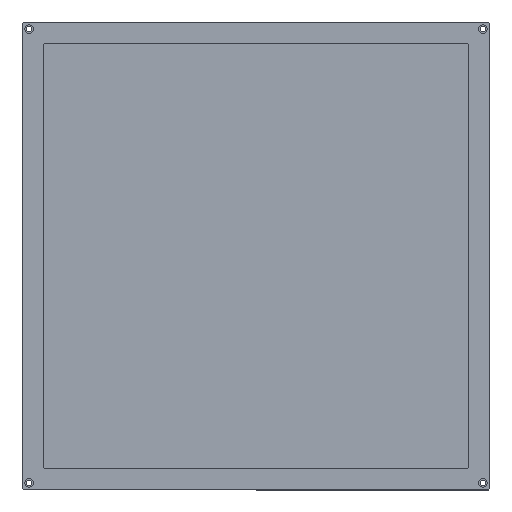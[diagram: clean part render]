
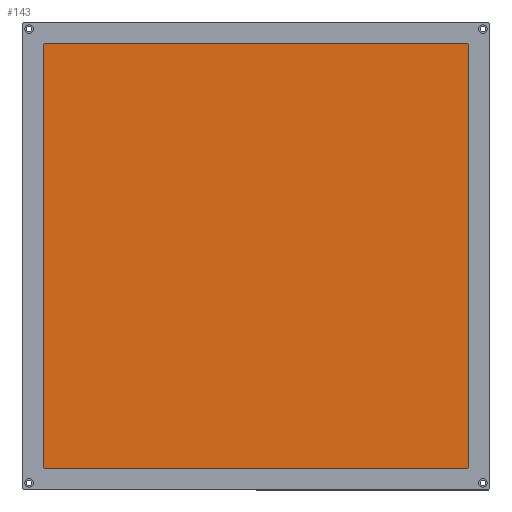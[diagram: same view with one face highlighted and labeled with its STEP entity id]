
A CAD part, top view. The second image highlights one B-rep face of the part: STEP entity #143.
In plain terms, the highlighted planar face has unit normal (0, 0, 1).
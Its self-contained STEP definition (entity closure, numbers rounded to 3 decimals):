
#68=CARTESIAN_POINT('',(0.,0.,11.5));
#69=DIRECTION('',(0.0,0.0,1.0));
#70=DIRECTION('',(1.0,0.0,0.0));
#71=AXIS2_PLACEMENT_3D('',#68,#69,#70);
#72=PLANE('',#71);
#73=CARTESIAN_POINT('',(150.,-148.,11.5));
#74=VERTEX_POINT('',#73);
#75=CARTESIAN_POINT('',(148.,-150.,11.5));
#76=VERTEX_POINT('',#75);
#77=CARTESIAN_POINT('',(148.,-148.,11.5));
#78=DIRECTION('',(0.0,0.0,-1.0));
#79=DIRECTION('',(0.0,-1.0,0.0));
#80=AXIS2_PLACEMENT_3D('',#77,#78,#79);
#81=CIRCLE('',#80,2.);
#82=EDGE_CURVE('',#74,#76,#81,.T.);
#83=ORIENTED_EDGE('',*,*,#82,.F.);
#84=CARTESIAN_POINT('',(150.,148.,11.5));
#85=VERTEX_POINT('',#84);
#86=CARTESIAN_POINT('',(150.0,148.,11.5));
#87=DIRECTION('',(0.0,-1.0,0.0));
#88=VECTOR('',#87,296.);
#89=LINE('',#86,#88);
#90=EDGE_CURVE('',#85,#74,#89,.T.);
#91=ORIENTED_EDGE('',*,*,#90,.F.);
#92=CARTESIAN_POINT('',(148.,150.,11.5));
#93=VERTEX_POINT('',#92);
#94=CARTESIAN_POINT('',(148.,148.,11.5));
#95=DIRECTION('',(0.0,0.0,-1.0));
#96=DIRECTION('',(1.0,0.0,0.0));
#97=AXIS2_PLACEMENT_3D('',#94,#95,#96);
#98=CIRCLE('',#97,2.);
#99=EDGE_CURVE('',#93,#85,#98,.T.);
#100=ORIENTED_EDGE('',*,*,#99,.F.);
#101=CARTESIAN_POINT('',(-148.,150.,11.5));
#102=VERTEX_POINT('',#101);
#103=CARTESIAN_POINT('',(-148.0,150.,11.5));
#104=DIRECTION('',(1.0,0.0,0.0));
#105=VECTOR('',#104,296.);
#106=LINE('',#103,#105);
#107=EDGE_CURVE('',#102,#93,#106,.T.);
#108=ORIENTED_EDGE('',*,*,#107,.F.);
#109=CARTESIAN_POINT('',(-150.,148.,11.5));
#110=VERTEX_POINT('',#109);
#111=CARTESIAN_POINT('',(-148.,148.,11.5));
#112=DIRECTION('',(0.0,0.0,-1.0));
#113=DIRECTION('',(0.0,1.0,0.0));
#114=AXIS2_PLACEMENT_3D('',#111,#112,#113);
#115=CIRCLE('',#114,2.);
#116=EDGE_CURVE('',#110,#102,#115,.T.);
#117=ORIENTED_EDGE('',*,*,#116,.F.);
#118=CARTESIAN_POINT('',(-150.,-148.,11.5));
#119=VERTEX_POINT('',#118);
#120=CARTESIAN_POINT('',(-150.,-148.,11.5));
#121=DIRECTION('',(0.0,1.0,0.0));
#122=VECTOR('',#121,296.);
#123=LINE('',#120,#122);
#124=EDGE_CURVE('',#119,#110,#123,.T.);
#125=ORIENTED_EDGE('',*,*,#124,.F.);
#126=CARTESIAN_POINT('',(-148.,-150.,11.5));
#127=VERTEX_POINT('',#126);
#128=CARTESIAN_POINT('',(-148.,-148.,11.5));
#129=DIRECTION('',(0.0,0.0,-1.0));
#130=DIRECTION('',(-1.0,0.0,0.0));
#131=AXIS2_PLACEMENT_3D('',#128,#129,#130);
#132=CIRCLE('',#131,2.);
#133=EDGE_CURVE('',#127,#119,#132,.T.);
#134=ORIENTED_EDGE('',*,*,#133,.F.);
#135=CARTESIAN_POINT('',(148.,-150.,11.5));
#136=DIRECTION('',(-1.0,0.0,0.0));
#137=VECTOR('',#136,296.);
#138=LINE('',#135,#137);
#139=EDGE_CURVE('',#76,#127,#138,.T.);
#140=ORIENTED_EDGE('',*,*,#139,.F.);
#141=EDGE_LOOP('',(#83,#91,#100,#108,#117,#125,#134,#140));
#142=FACE_OUTER_BOUND('',#141,.T.);
#143=ADVANCED_FACE('',(#142),#72,.T.);
